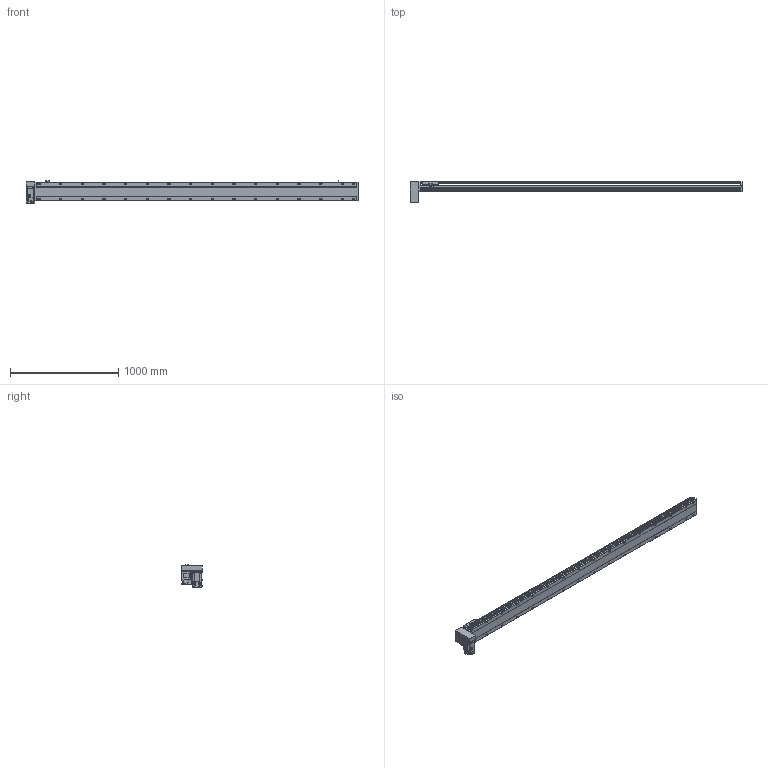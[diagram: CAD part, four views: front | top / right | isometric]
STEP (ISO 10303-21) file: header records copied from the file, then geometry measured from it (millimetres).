
FILE_DESCRIPTION( ( 'STEP AP214' ), '1' );
FILE_NAME( 'x:/temp/worker_5/temp/exporttempdir_3988_49_lsrMn/format_0/PBS170-P40-S2700-RD-T75-C1-N(0).stp', '2022-06-08T05:38:07', ( 'License CC BY-ND 4.0' ), ( 'CADENAS' ), ' ', 'PARTsolutions', ' ' );
FILE_SCHEMA( ( 'AUTOMOTIVE_DESIGN { 1 0 10303 214 1 1 1 1 }' ) );
Length unit declared in the file: millimetre
Products named in the file (7): PBS170-P40-S2700-RD-T75-C1-N(0); _PBS170-S2700()_body; _PBS170T-RD_motors; _T75-p1; _PBS170_sliser; _PBS170_plant; _PBS170_sensor
Assembly tree (8 placements, depth 2):
  PBS170-P40-S2700-RD-T75-C1-N(0)
    _PBS170-S2700()_body
    _PBS170T-RD_motors
    _T75-p1
    _PBS170_sliser
    _PBS170_plant
    _PBS170_sensor  x3
Bounding box: 3063 x 201 x 205.3 mm (x, y, z)
Volume: 23102353.1 mm3; surface area: 2902026.5 mm2
Topology: 8 solids, 8 shells, 1210 faces, 3195 edges, 2082 vertices
Faces by surface type: plane 735, cylinder 403, cone 62, sphere 8, torus 2
Full cylindrical faces by diameter (mm): 3.242 x4, 4 x2, 4.4 x4, 4.5 x6, 4.917 x4, 6 x9, 6.647 x40, 7 x2, 7.5 x4, 8 x8, 8.5 x32, 10 x4, 10.5 x32, 11 x2, 30 x2, 40 x1, 70 x1
Entity records: 44876 total; most frequent: CARTESIAN_POINT 7565, DIRECTION 5860, ORIENTED_EDGE 5508, EDGE_CURVE 2754, AXIS2_PLACEMENT_3D 2077, VERTEX_POINT 1922, LINE 1706, VECTOR 1706
